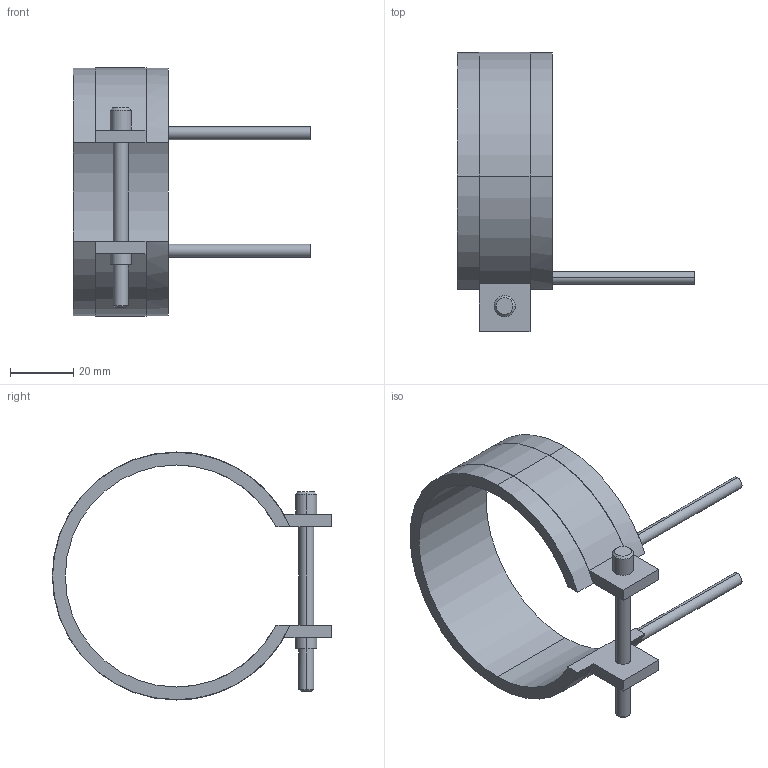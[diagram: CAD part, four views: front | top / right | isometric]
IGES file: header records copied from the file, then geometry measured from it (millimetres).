
Start section: START RECORD GO HERE.
Global section: file name: 14070030.igs; native system: DASSAULT SYSTEMES CATIA V5 R20 - www.3ds.com; preprocessor: CATIA Version 5 Release 20 ; author: Utente; organization: NB04-ASUS; date: 20210401.114826; units: millimetre
Bounding box: 75 x 88.1 x 78.2 mm (x, y, z)
Surface area: 17019.1 mm2 (no closed solid volume)
Topology: 0 solids, 0 shells, 45 faces, 232 edges, 232 vertices
Faces by surface type: revolution 28, plane 17
